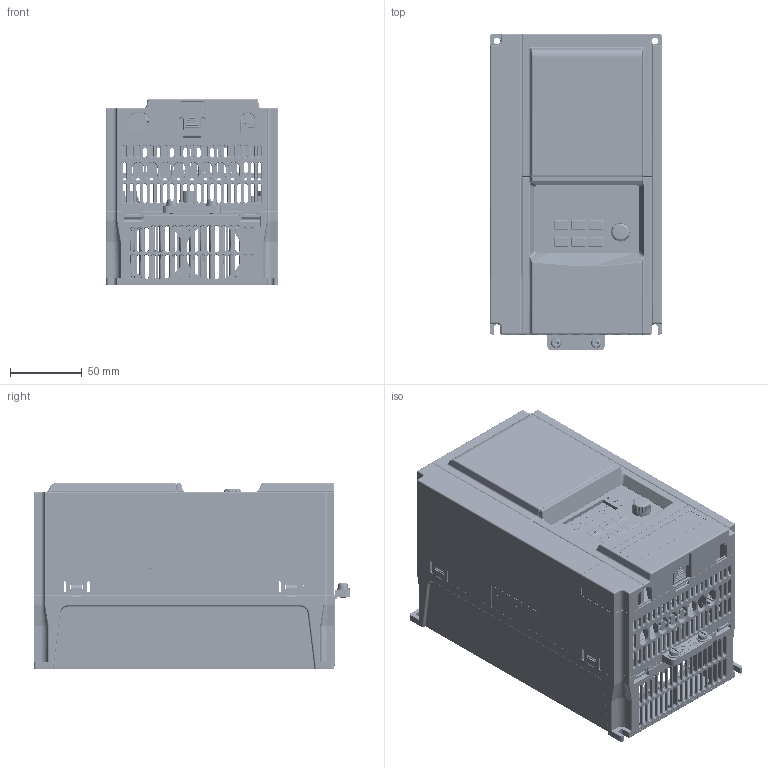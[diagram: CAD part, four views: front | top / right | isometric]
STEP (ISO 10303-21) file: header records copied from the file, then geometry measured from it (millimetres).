
FILE_DESCRIPTION((''),'2;1');
FILE_NAME('ASM_VFC3210_D','2018-11-06T14:10:03',('MEG2XI'),(''),'CREO PARAMETRIC BY PTC INC, 2017260','CREO PARAMETRIC BY PTC INC, 2017260','');
FILE_SCHEMA(('AUTOMOTIVE_DESIGN { 1 0 10303 214 1 1 1 1 }'));
Products named in the file (12): VFC3210_IOCOVER; YCP11-07; PANEL_FLIM; PANEL_XUANNIU; VFC3210_D_HOUSING; VFC3210_D_BACKCOVER; VFC3210_D_HEATSINK; VFC3210_D_FANBRACKET; WARNING_FRONT; WARNING_LEFT; LDZHJ_SZCYZT_M4X8; ASM_VFC3210_D
Assembly tree (12 placements, depth 2):
  ASM_VFC3210_D
    VFC3210_IOCOVER
    YCP11-07
    PANEL_FLIM
    PANEL_XUANNIU
    VFC3210_D_HOUSING
    VFC3210_D_BACKCOVER
    VFC3210_D_HEATSINK
    VFC3210_D_FANBRACKET
    WARNING_FRONT
    WARNING_LEFT
    LDZHJ_SZCYZT_M4X8  x2
Bounding box: 120 x 221 x 130.01 mm (x, y, z)
Volume: 654412.9 mm3; surface area: 548800.2 mm2
Topology: 11 solids, 1653 shells, 12504 faces, 36096 edges, 25263 vertices
Faces by surface type: plane 8269, cylinder 2387, bspline 570, torus 542, cone 351, extrusion 229, sphere 156
Entity records: 580332 total; most frequent: CARTESIAN_POINT 125796, DIRECTION 62327, ORIENTED_EDGE 61455, PRESENTATION_STYLE_ASSIGNMENT 39817, STYLED_ITEM 37444, CURVE_STYLE 35853, EDGE_CURVE 35853, VECTOR 26919
